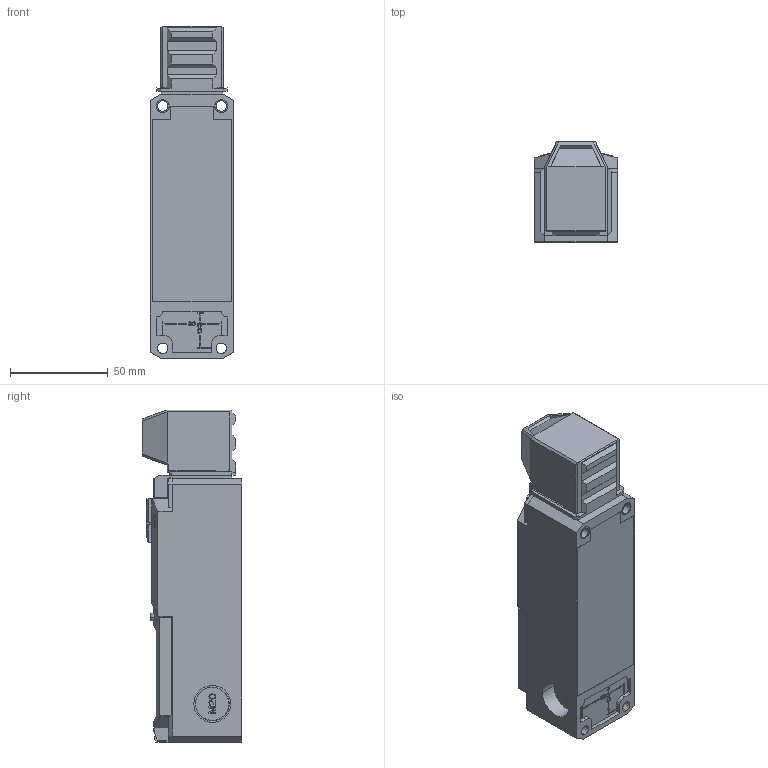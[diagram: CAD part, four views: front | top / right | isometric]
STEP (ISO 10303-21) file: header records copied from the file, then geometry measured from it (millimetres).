
FILE_DESCRIPTION((''),'2;1');
FILE_NAME('SLK_F_MIT_LED_SW0001','2011-05-17T',('T.Romberg'),(''),'PRO/ENGINEER BY PARAMETRIC TECHNOLOGY CORPORATION, 2005070','PRO/ENGINEER BY PARAMETRIC TECHNOLOGY CORPORATION, 2005070','');
FILE_SCHEMA(('AUTOMOTIVE_DESIGN_CC2 { 1 2 10303 214 -1 1 5 2 }'));
Products named in the file (1): SLK_F_MIT_LED_SW0001
Bounding box: 42.5 x 51.2 x 170 mm (x, y, z)
Surface area: 83285.8 mm2 (no closed solid volume)
Topology: 0 solids, 37 shells, 1516 faces, 5133 edges, 3611 vertices
Faces by surface type: plane 1143, cylinder 291, cone 51, torus 21, sphere 8, bspline 2
Entity records: 86977 total; most frequent: CARTESIAN_POINT 11146, ORIENTED_EDGE 9010, DIRECTION 8806, PRESENTATION_STYLE_ASSIGNMENT 6645, STYLED_ITEM 5129, CURVE_STYLE 5117, EDGE_CURVE 5117, VECTOR 4212
